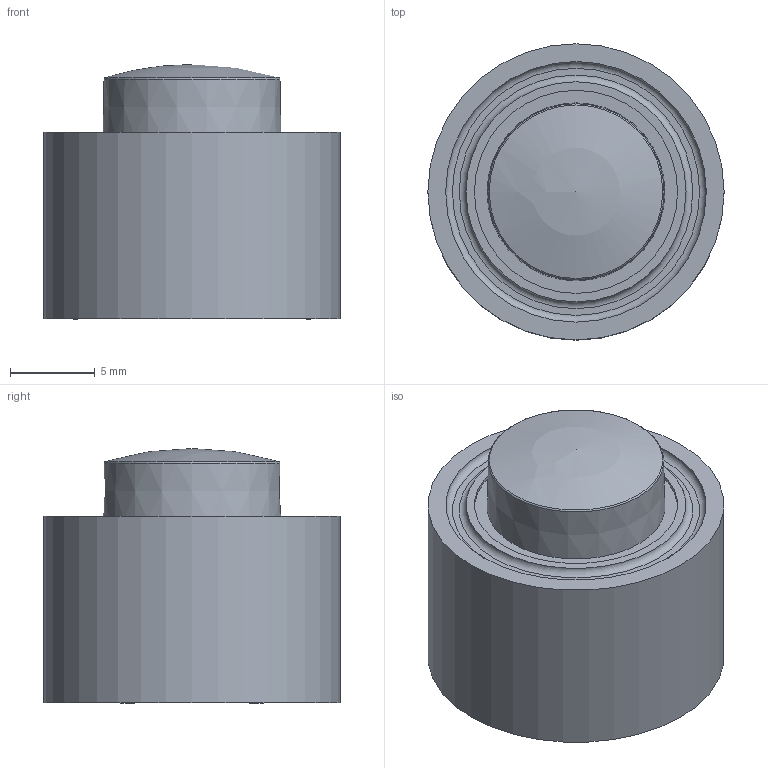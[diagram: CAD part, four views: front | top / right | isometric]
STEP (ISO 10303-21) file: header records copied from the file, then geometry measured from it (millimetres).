
FILE_DESCRIPTION(/* description */ (''),/* implementation_level */ '2;1');
FILE_NAME(/* name */ 'C:\Users\cgh.MEC\Desktop\Traceparts - 3D programserie\STEP filer\il-SMD\5GSH9xxxxxxx+1US+1UW.stp',/* time_stamp */ '2016-03-01T09:42:02+01:00',/* author */ ('cgh'),/* organization */ (''),/* preprocessor_version */ 'ST-DEVELOPER v15.2',/* originating_system */ 'Autodesk Inventor 2014',/* authorisation */ '');
FILE_SCHEMA (('AUTOMOTIVE_DESIGN { 1 0 10303 214 3 1 1 }'));
Length unit declared in the file: centimetre
Products named in the file (1): cgh
Bounding box: 17.5 x 17.5 x 15.06 mm (x, y, z)
Volume: 2001.1 mm3; surface area: 2935.8 mm2
Topology: 1 solids, 1 shells, 1344 faces, 3806 edges, 2476 vertices
Faces by surface type: plane 833, cylinder 226, bspline 156, torus 69, cone 46, sphere 14
Full cylindrical faces by diameter (mm): 0.9 x1, 1 x3, 2.8 x1, 4.73 x1, 6.5 x1, 7.44 x1, 12 x2, 13 x1, 17.5 x1
Entity records: 47524 total; most frequent: CARTESIAN_POINT 12355, ORIENTED_EDGE 7482, DIRECTION 6384, EDGE_CURVE 3741, VERTEX_POINT 2460, LINE 2390, VECTOR 2390, AXIS2_PLACEMENT_3D 1997
